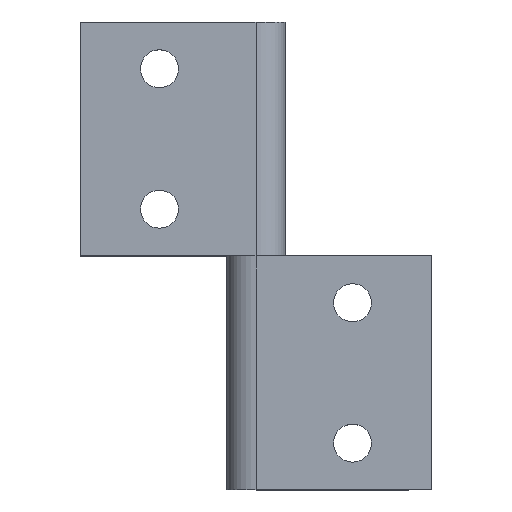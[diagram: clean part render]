
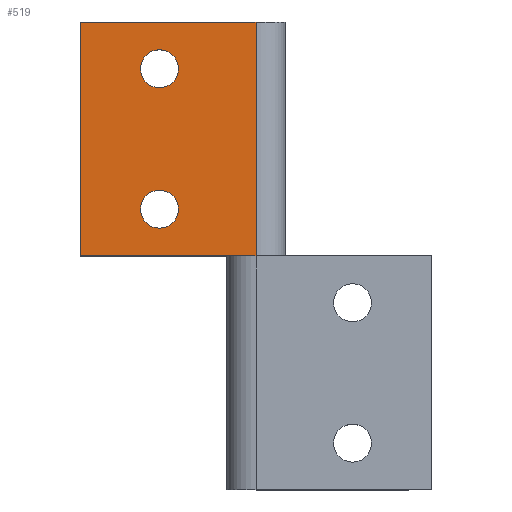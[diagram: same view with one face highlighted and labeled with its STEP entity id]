
A CAD part, top view. The second image highlights one B-rep face of the part: STEP entity #519.
In plain terms, the highlighted planar face has unit normal (0, 0, 1).
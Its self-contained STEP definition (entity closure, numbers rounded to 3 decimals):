
#141=DIRECTION('',(1.,0.,0.));
#142=VECTOR('',#141,30.);
#143=CARTESIAN_POINT('',(-30.,-20.,0.));
#144=LINE('',#143,#142);
#163=DIRECTION('',(1.,0.,0.));
#164=VECTOR('',#163,30.);
#165=CARTESIAN_POINT('',(-30.,20.,0.));
#166=LINE('',#165,#164);
#184=DIRECTION('',(0.,1.,0.));
#185=VECTOR('',#184,40.);
#186=CARTESIAN_POINT('',(0.,-20.,0.));
#187=LINE('',#186,#185);
#209=DIRECTION('',(0.,1.,0.));
#210=VECTOR('',#209,40.);
#211=CARTESIAN_POINT('',(-30.,-20.,0.));
#212=LINE('',#211,#210);
#213=CARTESIAN_POINT('',(-16.5,-12.,0.));
#214=DIRECTION('',(0.,0.,-1.));
#215=DIRECTION('',(1.,0.,0.));
#216=AXIS2_PLACEMENT_3D('',#213,#214,#215);
#218=CARTESIAN_POINT('',(-16.5,-12.,0.));
#219=DIRECTION('',(0.,0.,-1.));
#220=DIRECTION('',(-1.,0.,0.));
#221=AXIS2_PLACEMENT_3D('',#218,#219,#220);
#223=CARTESIAN_POINT('',(-16.5,12.,0.));
#224=DIRECTION('',(0.,0.,-1.));
#225=DIRECTION('',(1.,0.,0.));
#226=AXIS2_PLACEMENT_3D('',#223,#224,#225);
#228=CARTESIAN_POINT('',(-16.5,12.,0.));
#229=DIRECTION('',(0.,0.,-1.));
#230=DIRECTION('',(-1.,0.,0.));
#231=AXIS2_PLACEMENT_3D('',#228,#229,#230);
#305=CARTESIAN_POINT('',(-30.,-20.,0.));
#306=CARTESIAN_POINT('',(-30.,20.,0.));
#307=VERTEX_POINT('',#305);
#308=VERTEX_POINT('',#306);
#321=CARTESIAN_POINT('',(0.,-20.,0.));
#322=VERTEX_POINT('',#321);
#323=CARTESIAN_POINT('',(0.,20.,0.));
#324=VERTEX_POINT('',#323);
#333=CARTESIAN_POINT('',(-13.25,-12.,0.));
#334=CARTESIAN_POINT('',(-19.75,-12.,0.));
#335=VERTEX_POINT('',#333);
#336=VERTEX_POINT('',#334);
#337=CARTESIAN_POINT('',(-13.25,12.,0.));
#338=CARTESIAN_POINT('',(-19.75,12.,0.));
#339=VERTEX_POINT('',#337);
#340=VERTEX_POINT('',#338);
#496=CARTESIAN_POINT('',(-30.,-20.,0.));
#497=DIRECTION('',(0.,0.,1.));
#498=DIRECTION('',(1.,0.,0.));
#499=AXIS2_PLACEMENT_3D('',#496,#497,#498);
#500=PLANE('',#499);
#501=ORIENTED_EDGE('',*,*,#439,.F.);
#502=ORIENTED_EDGE('',*,*,#370,.F.);
#503=ORIENTED_EDGE('',*,*,#491,.T.);
#504=ORIENTED_EDGE('',*,*,#416,.T.);
#505=EDGE_LOOP('',(#501,#502,#503,#504));
#506=FACE_OUTER_BOUND('',#505,.F.);
#508=ORIENTED_EDGE('',*,*,#507,.F.);
#510=ORIENTED_EDGE('',*,*,#509,.F.);
#511=EDGE_LOOP('',(#508,#510));
#512=FACE_BOUND('',#511,.F.);
#514=ORIENTED_EDGE('',*,*,#513,.F.);
#516=ORIENTED_EDGE('',*,*,#515,.F.);
#517=EDGE_LOOP('',(#514,#516));
#518=FACE_BOUND('',#517,.F.);
#519=ADVANCED_FACE('',(#506,#512,#518),#500,.T.);
#217=CIRCLE('',#216,3.25);
#222=CIRCLE('',#221,3.25);
#227=CIRCLE('',#226,3.25);
#232=CIRCLE('',#231,3.25);
#370=EDGE_CURVE('',#307,#322,#144,.T.);
#416=EDGE_CURVE('',#308,#324,#166,.T.);
#439=EDGE_CURVE('',#322,#324,#187,.T.);
#491=EDGE_CURVE('',#307,#308,#212,.T.);
#507=EDGE_CURVE('',#335,#336,#217,.T.);
#509=EDGE_CURVE('',#336,#335,#222,.T.);
#513=EDGE_CURVE('',#339,#340,#227,.T.);
#515=EDGE_CURVE('',#340,#339,#232,.T.);
